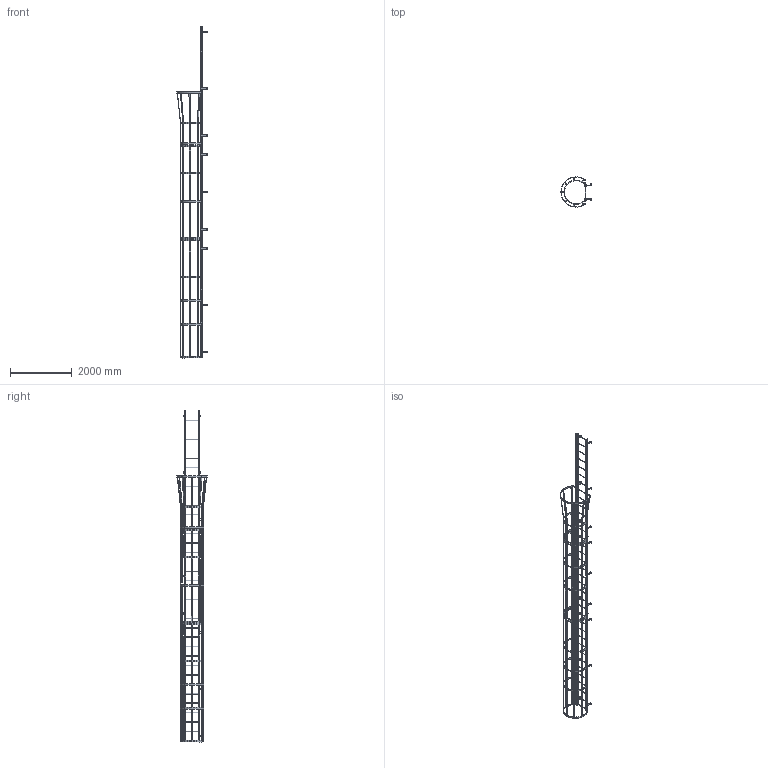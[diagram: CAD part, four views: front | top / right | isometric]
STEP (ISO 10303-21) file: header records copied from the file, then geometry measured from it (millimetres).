
FILE_DESCRIPTION(/* description */ (''),/* implementation_level */ '2;1');
FILE_NAME(/* name */ 'P:\MIKEL & KAREN\3570367 F36SC SIMPLIFIED PART.stp',/* time_stamp */ '2018-07-02T16:08:30-04:00',/* author */ ('stephanie'),/* organization */ (''),/* preprocessor_version */ 'ST-DEVELOPER v16.1',/* originating_system */ 'Autodesk Inventor 2016',/* authorisation */ '');
FILE_SCHEMA (('AUTOMOTIVE_DESIGN { 1 0 10303 214 3 1 1 }'));
Length unit declared in the file: centimetre
Products named in the file (1): 3570367 F36SC SIMPLIFIED PART
Bounding box: 974.15 x 977.88 x 10744.2 mm (x, y, z)
Volume: 37507906.1 mm3; surface area: 13362779.2 mm2
Topology: 54 solids, 54 shells, 1084 faces, 3248 edges, 2088 vertices
Faces by surface type: plane 712, cylinder 372
Full cylindrical faces by diameter (mm): 14.287 x22, 19.05 x36, 22.225 x72
Entity records: 36865 total; most frequent: ORIENTED_EDGE 6300, CARTESIAN_POINT 6103, DIRECTION 6090, EDGE_CURVE 3024, LINE 2128, VECTOR 2128, VERTEX_POINT 1994, AXIS2_PLACEMENT_3D 1981
